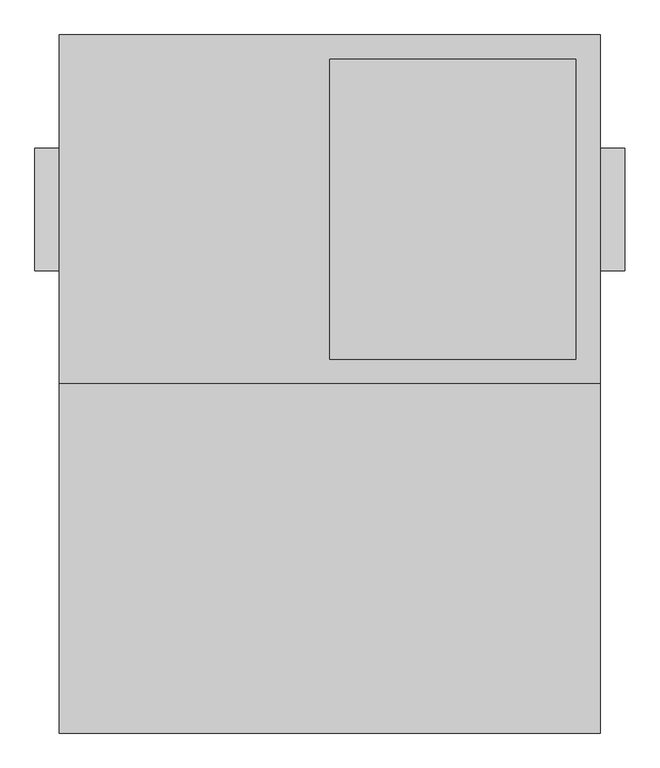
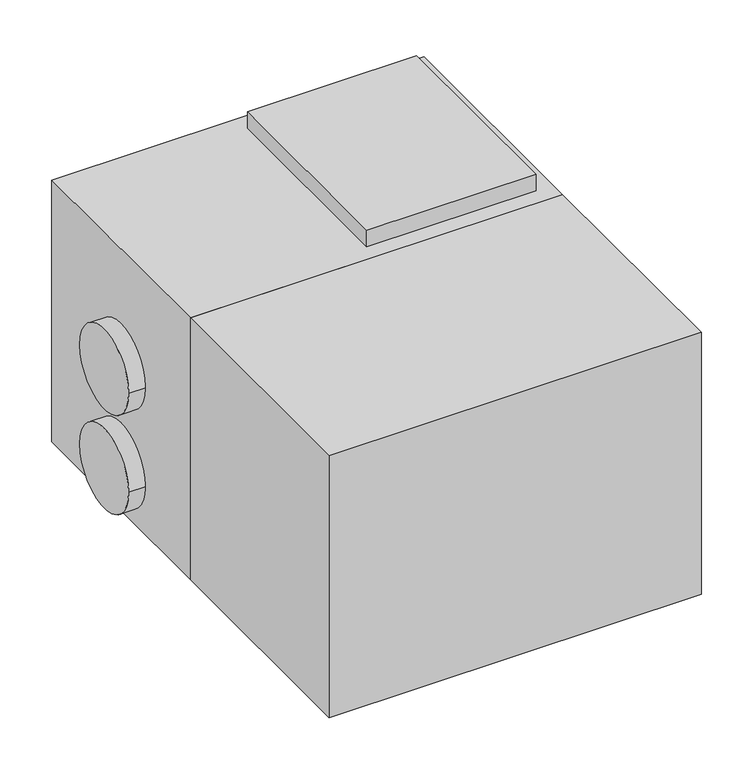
"""IFC4 building model written with IfcOpenShell, lengths in millimetres: proxy geometry, ADSK_КПВУ RIVIERA-EC HRE_круглая : Riviera-EC HRE 850."""

from ifc_helpers import new_model, si_unit, point, frame, frame_2d, origin, place, context, project, spatial, polyline, circle_curve, trimmed, segment, composite_curve, outline, extrude, faceted_brep, source, transform, mapped, element, save


def mechanical_equipment_c8dcfe09(model_context):
    return source(origin(), model_context, "Body", "SolidModel", [
        extrude(outline(polyline([(816.0, -355.0), (816.0, -1065.0), (-284.0, -1065.0), (-284.0, -355.0), (816.0, -355.0)])), frame((0.0, 0.0, 31.0), z_axis=(0.0, 0.0, 1.0), x_axis=(1.0, 0.0, 0.0)), (0.0, 0.0, 1.0), 818.0),
        faceted_brep([(816.0, -355.0, 849.0), (816.0, -355.0, 31.0), (816.0, 355.0, 31.0), (816.0, 355.0, 849.0), (-284.0, -355.0, 849.0), (-284.0, 355.0, 849.0), (-284.0, 355.0, 31.0), (-284.0, -355.0, 31.0), (266.0, 305.0, 849.0), (766.0, 305.0, 849.0), (766.0, -305.0, 849.0), (266.0, -305.0, 849.0), (766.0, 305.0, 900.0), (266.0, 305.0, 900.0), (266.0, -305.0, 900.0), (766.0, -305.0, 900.0)], [[[0, 1, 2, 3]], [[4, 5, 6, 7]], [[1, 0, 4, 7]], [[2, 1, 7, 6]], [[3, 2, 6, 5]], [[0, 3, 5, 4], [8, 9, 10, 11]], [[12, 13, 14, 15]], [[13, 12, 9, 8]], [[14, 13, 8, 11]], [[15, 14, 11, 10]], [[12, 15, 10, 9]]]),
        extrude(outline(composite_curve([segment(trimmed(circle_curve(frame_2d((0.0, 492.0)), 125.0), [point((-125.0, 492.0))], [point((125.0, 492.0))], False, "CARTESIAN"), True, "CONTINUOUS"), segment(trimmed(circle_curve(frame_2d((0.0, 492.0)), 125.0), [point((125.0, 492.0))], [point((-125.0, 492.0))], False, "CARTESIAN"), True, "CONTINUOUS")], self_intersect=False)), frame((-334.0, 0.0, 0.0), z_axis=(1.0, 0.0, 0.0), x_axis=(0.0, 1.0, 0.0)), (0.0, 0.0, 1.0), 50.0),
        extrude(outline(composite_curve([segment(trimmed(circle_curve(frame_2d((0.0, 182.0)), 125.0), [point((-125.0, 182.0))], [point((125.0, 182.0))], False, "CARTESIAN"), True, "CONTINUOUS"), segment(trimmed(circle_curve(frame_2d((0.0, 182.0)), 125.0), [point((125.0, 182.0))], [point((-125.0, 182.0))], False, "CARTESIAN"), True, "CONTINUOUS")], self_intersect=False)), frame((-334.0, 0.0, 0.0), z_axis=(1.0, 0.0, 0.0), x_axis=(0.0, 1.0, 0.0)), (0.0, 0.0, 1.0), 50.0),
        extrude(outline(composite_curve([segment(trimmed(circle_curve(frame_2d((0.0, 492.0)), 125.0), [point((-125.0, 492.0))], [point((125.0, 492.0))], False, "CARTESIAN"), True, "CONTINUOUS"), segment(trimmed(circle_curve(frame_2d((0.0, 492.0)), 125.0), [point((125.0, 492.0))], [point((-125.0, 492.0))], False, "CARTESIAN"), True, "CONTINUOUS")], self_intersect=False)), frame((816.0, 0.0, 0.0), z_axis=(1.0, 0.0, 0.0), x_axis=(0.0, 1.0, 0.0)), (0.0, 0.0, 1.0), 50.0),
        extrude(outline(composite_curve([segment(trimmed(circle_curve(frame_2d((0.0, 182.0)), 125.0), [point((-125.0, 182.0))], [point((125.0, 182.0))], False, "CARTESIAN"), True, "CONTINUOUS"), segment(trimmed(circle_curve(frame_2d((0.0, 182.0)), 125.0), [point((125.0, 182.0))], [point((-125.0, 182.0))], False, "CARTESIAN"), True, "CONTINUOUS")], self_intersect=False)), frame((816.0, 0.0, 0.0), z_axis=(1.0, 0.0, 0.0), x_axis=(0.0, 1.0, 0.0)), (0.0, 0.0, 1.0), 50.0),
        extrude(outline(polyline([(0.0, -104.0), (31.0, -104.0), (31.0, -114.0), (10.0, -114.0), (10.0, -154.0), (31.0, -154.0), (31.0, -164.0), (0.0, -164.0), (0.0, -104.0)])), frame((0.0, -355.0, 0.0), z_axis=(0.0, 1.0, 0.0), x_axis=(0.0, 0.0, 1.0)), (0.0, 0.0, 1.0), 710.0),
        extrude(outline(polyline([(0.0, 696.0), (31.0, 696.0), (31.0, 686.0), (10.0, 686.0), (10.0, 646.0), (31.0, 646.0), (31.0, 636.0), (0.0, 636.0), (0.0, 696.0)])), frame((0.0, -355.0, 0.0), z_axis=(0.0, 1.0, 0.0), x_axis=(0.0, 0.0, 1.0)), (0.0, 0.0, 1.0), 710.0),
    ])


if __name__ == "__main__":
    model = new_model("IFC4")
    model_context = context("Model", 3, world=origin())
    ifc_project = project(units=[si_unit("LENGTHUNIT", "METRE", prefix="MILLI")], contexts=[model_context])
    site = spatial("IfcSite", under=ifc_project)
    building = spatial("IfcBuilding", under=site)
    placement = place(None, origin())
    mechanical_equipment_shape = mechanical_equipment_c8dcfe09(model_context)
    element("IfcBuildingElementProxy", 1, Name="ADSK_КПВУ RIVIERA-EC HRE_круглая : Riviera-EC HRE 850", ObjectType="ADSK_КПВУ RIVIERA-EC HRE_круглая : Riviera-EC HRE 850", at=placement, inside=building, context=model_context, shape_type="MappedRepresentation", body=[
        mapped(mechanical_equipment_shape, transform((0.0, 0.0, 0.0), x_axis=(1.0, 0.0, 0.0), y_axis=(0.0, 1.0, 0.0), z_axis=(0.0, 0.0, 1.0))),
    ])
    save(model, "model.ifc")
